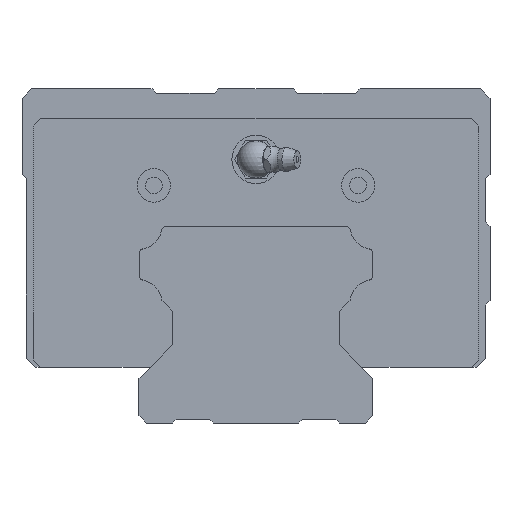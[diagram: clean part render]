
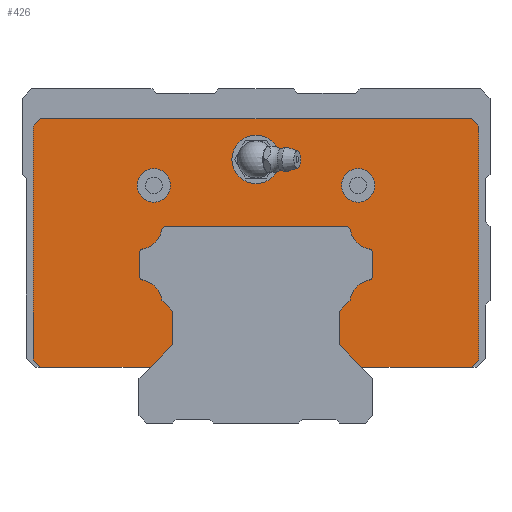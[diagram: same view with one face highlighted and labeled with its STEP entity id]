
A CAD part, front view. The second image highlights one B-rep face of the part: STEP entity #426.
In plain terms, the highlighted planar face has unit normal (0, -1, 0).
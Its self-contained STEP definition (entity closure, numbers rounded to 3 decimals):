
#167=FACE_BOUND('',#886,.T.);
#168=FACE_BOUND('',#887,.T.);
#169=FACE_BOUND('',#888,.T.);
#269=CIRCLE('',#3222,1.2);
#271=CIRCLE('',#3225,6.4);
#275=CIRCLE('',#3245,6.4);
#277=CIRCLE('',#3248,1.2);
#279=CIRCLE('',#3252,1.2);
#281=CIRCLE('',#3255,6.4);
#283=CIRCLE('',#3258,1.2);
#285=CIRCLE('',#3262,1.2);
#287=CIRCLE('',#3265,6.4);
#289=CIRCLE('',#3268,1.2);
#290=CIRCLE('',#3271,4.5);
#291=CIRCLE('',#3272,6.5);
#292=CIRCLE('',#3273,4.5);
#426=ADVANCED_FACE('',(#167,#168,#169,#725),#584,.T.);
#584=PLANE('',#3274);
#725=FACE_OUTER_BOUND('',#889,.T.);
#886=EDGE_LOOP('',(#1902));
#887=EDGE_LOOP('',(#1903));
#888=EDGE_LOOP('',(#1904));
#889=EDGE_LOOP('',(#1905,#1906,#1907,#1908,#1909,#1910,#1911,#1912,#1913,
#1914,#1915,#1916,#1917,#1918,#1919,#1920,#1921,#1922,#1923,#1924,#1925,
#1926,#1927,#1928,#1929,#1930,#1931,#1932));
#1102=LINE('',#4701,#1379);
#1105=LINE('',#4707,#1382);
#1108=LINE('',#4713,#1385);
#1115=LINE('',#4727,#1392);
#1118=LINE('',#4733,#1395);
#1121=LINE('',#4741,#1398);
#1124=LINE('',#4747,#1401);
#1127=LINE('',#4753,#1404);
#1130=LINE('',#4759,#1407);
#1133=LINE('',#4767,#1410);
#1136=LINE('',#4773,#1413);
#1143=LINE('',#4787,#1420);
#1146=LINE('',#4793,#1423);
#1149=LINE('',#4799,#1426);
#1152=LINE('',#4805,#1429);
#1157=LINE('',#4823,#1434);
#1163=LINE('',#4847,#1440);
#1168=LINE('',#4868,#1445);
#1379=VECTOR('',#3629,1.);
#1382=VECTOR('',#3634,1.);
#1385=VECTOR('',#3639,1.);
#1392=VECTOR('',#3648,1.);
#1395=VECTOR('',#3653,1.);
#1398=VECTOR('',#3660,1.);
#1401=VECTOR('',#3665,1.);
#1404=VECTOR('',#3670,1.);
#1407=VECTOR('',#3675,1.);
#1410=VECTOR('',#3682,1.);
#1413=VECTOR('',#3687,1.);
#1420=VECTOR('',#3696,1.);
#1423=VECTOR('',#3701,1.);
#1426=VECTOR('',#3706,1.);
#1429=VECTOR('',#3711,1.);
#1434=VECTOR('',#3730,1.);
#1440=VECTOR('',#3756,1.);
#1445=VECTOR('',#3781,1.);
#1902=ORIENTED_EDGE('',*,*,#2907,.T.);
#1903=ORIENTED_EDGE('',*,*,#2908,.T.);
#1904=ORIENTED_EDGE('',*,*,#2909,.T.);
#1905=ORIENTED_EDGE('',*,*,#2816,.T.);
#1906=ORIENTED_EDGE('',*,*,#2819,.T.);
#1907=ORIENTED_EDGE('',*,*,#2822,.T.);
#1908=ORIENTED_EDGE('',*,*,#2825,.T.);
#1909=ORIENTED_EDGE('',*,*,#2828,.T.);
#1910=ORIENTED_EDGE('',*,*,#2835,.T.);
#1911=ORIENTED_EDGE('',*,*,#2838,.T.);
#1912=ORIENTED_EDGE('',*,*,#2842,.T.);
#1913=ORIENTED_EDGE('',*,*,#2845,.T.);
#1914=ORIENTED_EDGE('',*,*,#2848,.T.);
#1915=ORIENTED_EDGE('',*,*,#2851,.T.);
#1916=ORIENTED_EDGE('',*,*,#2855,.T.);
#1917=ORIENTED_EDGE('',*,*,#2858,.T.);
#1918=ORIENTED_EDGE('',*,*,#2865,.T.);
#1919=ORIENTED_EDGE('',*,*,#2868,.T.);
#1920=ORIENTED_EDGE('',*,*,#2871,.T.);
#1921=ORIENTED_EDGE('',*,*,#2874,.T.);
#1922=ORIENTED_EDGE('',*,*,#2877,.T.);
#1923=ORIENTED_EDGE('',*,*,#2880,.T.);
#1924=ORIENTED_EDGE('',*,*,#2883,.T.);
#1925=ORIENTED_EDGE('',*,*,#2886,.T.);
#1926=ORIENTED_EDGE('',*,*,#2889,.T.);
#1927=ORIENTED_EDGE('',*,*,#2892,.T.);
#1928=ORIENTED_EDGE('',*,*,#2895,.T.);
#1929=ORIENTED_EDGE('',*,*,#2898,.T.);
#1930=ORIENTED_EDGE('',*,*,#2901,.T.);
#1931=ORIENTED_EDGE('',*,*,#2904,.T.);
#1932=ORIENTED_EDGE('',*,*,#2906,.T.);
#2492=VERTEX_POINT('',#4683);
#2495=VERTEX_POINT('',#4688);
#2497=VERTEX_POINT('',#4694);
#2499=VERTEX_POINT('',#4700);
#2501=VERTEX_POINT('',#4706);
#2503=VERTEX_POINT('',#4712);
#2509=VERTEX_POINT('',#4726);
#2511=VERTEX_POINT('',#4732);
#2514=VERTEX_POINT('',#4740);
#2516=VERTEX_POINT('',#4746);
#2518=VERTEX_POINT('',#4752);
#2520=VERTEX_POINT('',#4758);
#2523=VERTEX_POINT('',#4766);
#2525=VERTEX_POINT('',#4772);
#2531=VERTEX_POINT('',#4786);
#2533=VERTEX_POINT('',#4792);
#2535=VERTEX_POINT('',#4798);
#2537=VERTEX_POINT('',#4804);
#2539=VERTEX_POINT('',#4810);
#2541=VERTEX_POINT('',#4816);
#2543=VERTEX_POINT('',#4822);
#2545=VERTEX_POINT('',#4828);
#2547=VERTEX_POINT('',#4834);
#2549=VERTEX_POINT('',#4840);
#2551=VERTEX_POINT('',#4846);
#2553=VERTEX_POINT('',#4852);
#2555=VERTEX_POINT('',#4858);
#2557=VERTEX_POINT('',#4864);
#2558=VERTEX_POINT('',#4871);
#2559=VERTEX_POINT('',#4873);
#2560=VERTEX_POINT('',#4875);
#2816=EDGE_CURVE('',#2492,#2495,#269,.T.);
#2819=EDGE_CURVE('',#2495,#2497,#271,.T.);
#2822=EDGE_CURVE('',#2497,#2499,#1102,.T.);
#2825=EDGE_CURVE('',#2499,#2501,#1105,.T.);
#2828=EDGE_CURVE('',#2501,#2503,#1108,.T.);
#2835=EDGE_CURVE('',#2503,#2509,#1115,.T.);
#2838=EDGE_CURVE('',#2509,#2511,#1118,.T.);
#2842=EDGE_CURVE('',#2511,#2514,#1121,.T.);
#2845=EDGE_CURVE('',#2514,#2516,#1124,.T.);
#2848=EDGE_CURVE('',#2516,#2518,#1127,.T.);
#2851=EDGE_CURVE('',#2518,#2520,#1130,.T.);
#2855=EDGE_CURVE('',#2520,#2523,#1133,.T.);
#2858=EDGE_CURVE('',#2523,#2525,#1136,.T.);
#2865=EDGE_CURVE('',#2525,#2531,#1143,.T.);
#2868=EDGE_CURVE('',#2531,#2533,#1146,.T.);
#2871=EDGE_CURVE('',#2533,#2535,#1149,.T.);
#2874=EDGE_CURVE('',#2535,#2537,#1152,.T.);
#2877=EDGE_CURVE('',#2537,#2539,#275,.T.);
#2880=EDGE_CURVE('',#2539,#2541,#277,.T.);
#2883=EDGE_CURVE('',#2541,#2543,#1157,.T.);
#2886=EDGE_CURVE('',#2543,#2545,#279,.T.);
#2889=EDGE_CURVE('',#2545,#2547,#281,.T.);
#2892=EDGE_CURVE('',#2547,#2549,#283,.T.);
#2895=EDGE_CURVE('',#2549,#2551,#1163,.T.);
#2898=EDGE_CURVE('',#2551,#2553,#285,.T.);
#2901=EDGE_CURVE('',#2553,#2555,#287,.T.);
#2904=EDGE_CURVE('',#2555,#2557,#289,.T.);
#2906=EDGE_CURVE('',#2557,#2492,#1168,.T.);
#2907=EDGE_CURVE('',#2558,#2558,#290,.T.);
#2908=EDGE_CURVE('',#2559,#2559,#291,.T.);
#2909=EDGE_CURVE('',#2560,#2560,#292,.T.);
#3222=AXIS2_PLACEMENT_3D('',#4689,#3616,#3617);
#3225=AXIS2_PLACEMENT_3D('',#4695,#3623,#3624);
#3245=AXIS2_PLACEMENT_3D('',#4811,#3717,#3718);
#3248=AXIS2_PLACEMENT_3D('',#4817,#3724,#3725);
#3252=AXIS2_PLACEMENT_3D('',#4829,#3736,#3737);
#3255=AXIS2_PLACEMENT_3D('',#4835,#3743,#3744);
#3258=AXIS2_PLACEMENT_3D('',#4841,#3750,#3751);
#3262=AXIS2_PLACEMENT_3D('',#4853,#3762,#3763);
#3265=AXIS2_PLACEMENT_3D('',#4859,#3769,#3770);
#3268=AXIS2_PLACEMENT_3D('',#4865,#3776,#3777);
#3271=AXIS2_PLACEMENT_3D('',#4870,#3784,#3785);
#3272=AXIS2_PLACEMENT_3D('',#4872,#3786,#3787);
#3273=AXIS2_PLACEMENT_3D('',#4874,#3788,#3789);
#3274=AXIS2_PLACEMENT_3D('',#4876,#3790,#3791);
#3616=DIRECTION('',(0.,1.,0.));
#3617=DIRECTION('',(-1.,0.,0.));
#3623=DIRECTION('',(0.,-1.,0.));
#3624=DIRECTION('',(-1.,0.,0.));
#3629=DIRECTION('',(-0.707,0.,-0.707));
#3634=DIRECTION('',(0.,0.,-1.));
#3639=DIRECTION('',(0.707,0.,-0.707));
#3648=DIRECTION('',(1.,0.,0.));
#3653=DIRECTION('',(0.707,0.,0.707));
#3660=DIRECTION('',(0.,0.,1.));
#3665=DIRECTION('',(-0.707,0.,0.707));
#3670=DIRECTION('',(-1.,0.,0.));
#3675=DIRECTION('',(-0.707,0.,-0.707));
#3682=DIRECTION('',(0.,0.,-1.));
#3687=DIRECTION('',(0.707,0.,-0.707));
#3696=DIRECTION('',(1.,0.,0.));
#3701=DIRECTION('',(0.707,0.,0.707));
#3706=DIRECTION('',(0.,0.,1.));
#3711=DIRECTION('',(-0.707,0.,0.707));
#3717=DIRECTION('',(0.,-1.,0.));
#3718=DIRECTION('',(-1.,0.,0.));
#3724=DIRECTION('',(0.,1.,0.));
#3725=DIRECTION('',(-1.,0.,0.));
#3730=DIRECTION('',(0.,0.,1.));
#3736=DIRECTION('',(0.,1.,0.));
#3737=DIRECTION('',(-1.,0.,0.));
#3743=DIRECTION('',(0.,-1.,0.));
#3744=DIRECTION('',(-1.,0.,0.));
#3750=DIRECTION('',(0.,1.,0.));
#3751=DIRECTION('',(-1.,0.,0.));
#3756=DIRECTION('',(1.,0.,0.));
#3762=DIRECTION('',(0.,1.,0.));
#3763=DIRECTION('',(-1.,0.,0.));
#3769=DIRECTION('',(0.,-1.,0.));
#3770=DIRECTION('',(-1.,0.,0.));
#3776=DIRECTION('',(0.,1.,0.));
#3777=DIRECTION('',(-1.,0.,0.));
#3781=DIRECTION('',(0.,0.,-1.));
#3784=DIRECTION('',(0.,1.,0.));
#3785=DIRECTION('',(-1.,0.,0.));
#3786=DIRECTION('',(0.,1.,0.));
#3787=DIRECTION('',(-1.,0.,0.));
#3788=DIRECTION('',(0.,1.,0.));
#3789=DIRECTION('',(-1.,0.,0.));
#3790=DIRECTION('',(0.,-1.,0.));
#3791=DIRECTION('',(0.,0.,-1.));
#4683=CARTESIAN_POINT('',(31.4,-386.5,39.688));
#4688=CARTESIAN_POINT('',(30.432,-386.5,38.511));
#4689=CARTESIAN_POINT('',(30.2,-386.5,39.688));
#4694=CARTESIAN_POINT('',(25.323,-386.5,33.064));
#4695=CARTESIAN_POINT('',(31.668,-386.5,32.232));
#4700=CARTESIAN_POINT('',(22.4,-386.5,30.141));
#4701=CARTESIAN_POINT('',(25.323,-386.5,33.064));
#4706=CARTESIAN_POINT('',(22.4,-386.5,21.1));
#4707=CARTESIAN_POINT('',(22.4,-386.5,30.141));
#4712=CARTESIAN_POINT('',(28.5,-386.5,15.));
#4713=CARTESIAN_POINT('',(22.4,-386.5,21.1));
#4726=CARTESIAN_POINT('',(58.,-386.5,15.));
#4727=CARTESIAN_POINT('',(28.5,-386.5,15.));
#4732=CARTESIAN_POINT('',(60.,-386.5,17.));
#4733=CARTESIAN_POINT('',(58.,-386.5,15.));
#4740=CARTESIAN_POINT('',(60.,-386.5,80.));
#4741=CARTESIAN_POINT('',(60.,-386.5,17.));
#4746=CARTESIAN_POINT('',(58.,-386.5,82.));
#4747=CARTESIAN_POINT('',(60.,-386.5,80.));
#4752=CARTESIAN_POINT('',(-58.,-386.5,82.));
#4753=CARTESIAN_POINT('',(58.,-386.5,82.));
#4758=CARTESIAN_POINT('',(-60.,-386.5,80.));
#4759=CARTESIAN_POINT('',(-58.,-386.5,82.));
#4766=CARTESIAN_POINT('',(-60.,-386.5,17.));
#4767=CARTESIAN_POINT('',(-60.,-386.5,80.));
#4772=CARTESIAN_POINT('',(-58.,-386.5,15.));
#4773=CARTESIAN_POINT('',(-60.,-386.5,17.));
#4786=CARTESIAN_POINT('',(-28.5,-386.5,15.));
#4787=CARTESIAN_POINT('',(-58.,-386.5,15.));
#4792=CARTESIAN_POINT('',(-22.4,-386.5,21.1));
#4793=CARTESIAN_POINT('',(-28.5,-386.5,15.));
#4798=CARTESIAN_POINT('',(-22.4,-386.5,30.141));
#4799=CARTESIAN_POINT('',(-22.4,-386.5,21.1));
#4804=CARTESIAN_POINT('',(-25.323,-386.5,33.064));
#4805=CARTESIAN_POINT('',(-22.4,-386.5,30.141));
#4810=CARTESIAN_POINT('',(-30.432,-386.5,38.511));
#4811=CARTESIAN_POINT('',(-31.668,-386.5,32.232));
#4816=CARTESIAN_POINT('',(-31.4,-386.5,39.688));
#4817=CARTESIAN_POINT('',(-30.2,-386.5,39.688));
#4822=CARTESIAN_POINT('',(-31.4,-386.5,45.712));
#4823=CARTESIAN_POINT('',(-31.4,-386.5,39.688));
#4828=CARTESIAN_POINT('',(-30.432,-386.5,46.889));
#4829=CARTESIAN_POINT('',(-30.2,-386.5,45.712));
#4834=CARTESIAN_POINT('',(-25.389,-386.5,51.932));
#4835=CARTESIAN_POINT('',(-31.668,-386.5,53.168));
#4840=CARTESIAN_POINT('',(-24.212,-386.5,52.9));
#4841=CARTESIAN_POINT('',(-24.212,-386.5,51.7));
#4846=CARTESIAN_POINT('',(24.212,-386.5,52.9));
#4847=CARTESIAN_POINT('',(-24.212,-386.5,52.9));
#4852=CARTESIAN_POINT('',(25.389,-386.5,51.932));
#4853=CARTESIAN_POINT('',(24.212,-386.5,51.7));
#4858=CARTESIAN_POINT('',(30.432,-386.5,46.889));
#4859=CARTESIAN_POINT('',(31.668,-386.5,53.168));
#4864=CARTESIAN_POINT('',(31.4,-386.5,45.712));
#4865=CARTESIAN_POINT('',(30.2,-386.5,45.712));
#4868=CARTESIAN_POINT('',(31.4,-386.5,45.712));
#4870=CARTESIAN_POINT('',(27.5,-386.5,64.));
#4871=CARTESIAN_POINT('',(23.,-386.5,64.));
#4872=CARTESIAN_POINT('',(0.,-386.5,70.997));
#4873=CARTESIAN_POINT('',(-6.5,-386.5,70.997));
#4874=CARTESIAN_POINT('',(-27.5,-386.5,64.));
#4875=CARTESIAN_POINT('',(-32.,-386.5,64.));
#4876=CARTESIAN_POINT('',(30.2,-386.5,39.688));
